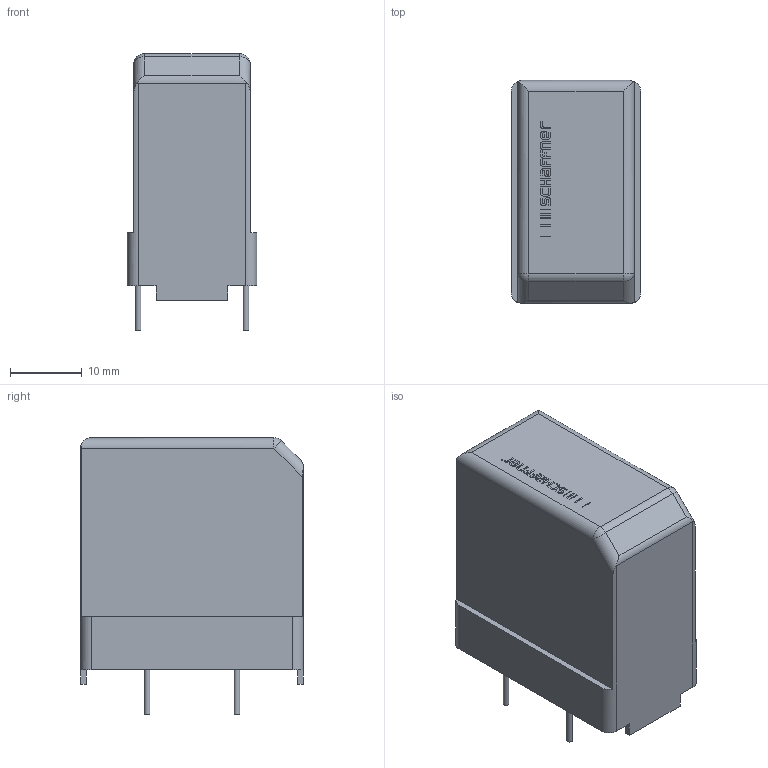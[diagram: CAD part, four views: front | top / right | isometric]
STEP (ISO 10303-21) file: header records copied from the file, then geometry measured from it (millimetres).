
FILE_DESCRIPTION((''),'2;1');
FILE_NAME('K:\CAD-PDM\Library\Inventor\3D format STEP file\3D RN-series\RN232.stp','2016-07-08T15:15:21',('jittrapon.maneerat'),(''),'Autodesk Inventor 2013','Autodesk Inventor 2013','');
FILE_SCHEMA(('AUTOMOTIVE_DESIGN { 1 0 10303 214 1 1 1 1 }'));
Length unit declared in the file: millimetre
Products named in the file (1): Part6
Bounding box: 18 x 31 x 38.51 mm (x, y, z)
Volume: 16484.1 mm3; surface area: 4210.7 mm2
Topology: 1 solids, 1 shells, 197 faces, 519 edges, 344 vertices
Faces by surface type: plane 142, bspline 32, cylinder 17, torus 4, sphere 2
Full cylindrical faces by diameter (mm): 0.8 x4
Entity records: 6534 total; most frequent: CARTESIAN_POINT 1625, ORIENTED_EDGE 1030, DIRECTION 809, EDGE_CURVE 515, VECTOR 401, LINE 401, VERTEX_POINT 344, EDGE_LOOP 221
